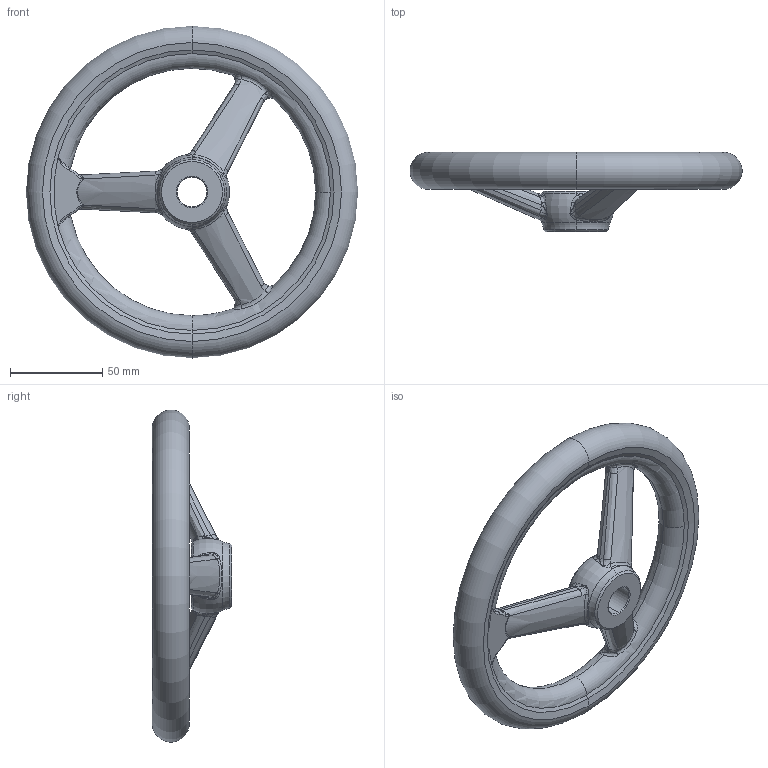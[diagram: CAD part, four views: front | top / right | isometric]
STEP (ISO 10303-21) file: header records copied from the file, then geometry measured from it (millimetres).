
FILE_DESCRIPTION (( 'STEP AP203' ), '1' );
FILE_NAME ('din950_a4_180x16.step', '2010-03-23T09:57:29', ( '_' ), ( '_' ), 'SwSTEP 2.0', 'SolidWorks 2010', '' );
FILE_SCHEMA (( 'CONFIG_CONTROL_DESIGN' ));
Length unit declared in the file: millimetre
Products named in the file (1): din950_a4_180x16
Bounding box: 179.93 x 43 x 179.93 mm (x, y, z)
Volume: 227642.5 mm3; surface area: 45999 mm2
Topology: 1 solids, 1 shells, 185 faces, 458 edges, 243 vertices
Faces by surface type: bspline 130, torus 21, cone 17, plane 10, cylinder 7
Entity records: 26215 total; most frequent: CARTESIAN_POINT 22729, ORIENTED_EDGE 864, DIRECTION 455, EDGE_CURVE 432, B_SPLINE_CURVE_WITH_KNOTS 245, VERTEX_POINT 243, AXIS2_PLACEMENT_3D 216, EDGE_LOOP 187
